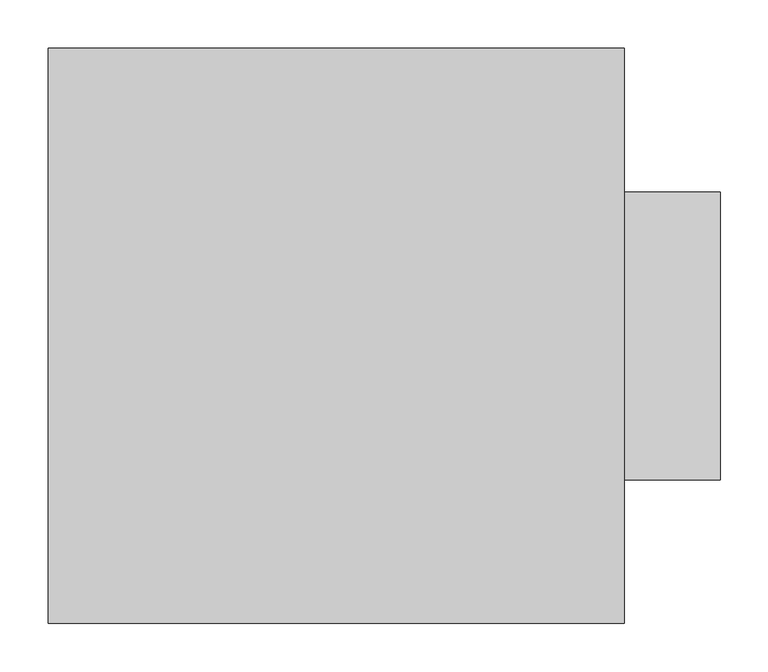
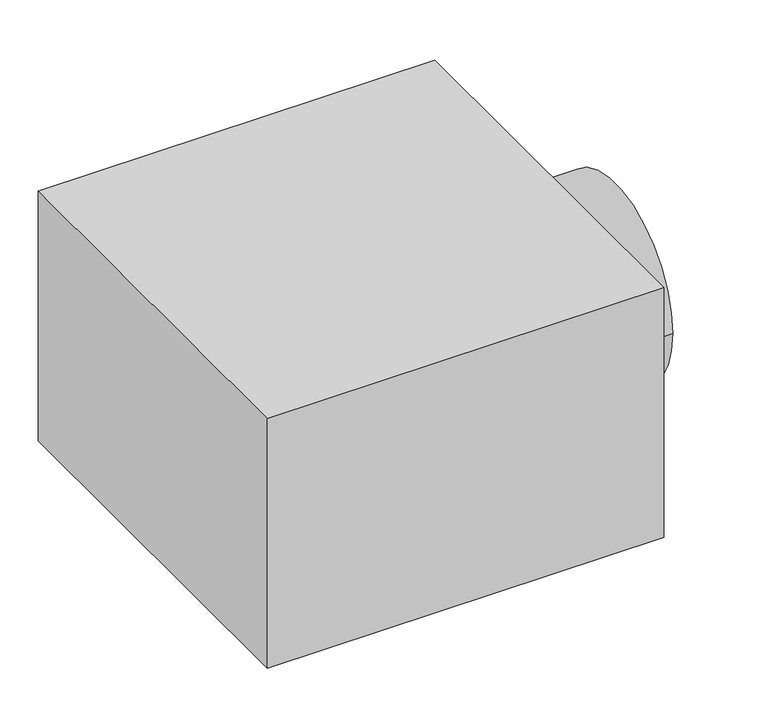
"""IFC4 building model written with IfcOpenShell, lengths in millimetres: duct fitting geometry, BL_Адаптер-СТ_КР : BL_Адаптер-СТ_КР."""

from ifc_helpers import new_model, si_unit, point, frame, origin, origin_2d, place, context, project, spatial, polyline, circle_curve, trimmed, segment, composite_curve, outline, extrude, source, transform, mapped, element, save


def duct_fitting_812cb25e(model_context):
    return source(origin(), model_context, "Body", "SweptSolid", [
        extrude(outline(composite_curve([segment(trimmed(circle_curve(origin_2d(), 150.0), [point((150.0, 0.0))], [point((-150.0, 0.0))], False, "CARTESIAN"), True, "CONTINUOUS"), segment(trimmed(circle_curve(origin_2d(), 150.0), [point((-150.0, 0.0))], [point((150.0, 0.0))], False, "CARTESIAN"), True, "CONTINUOUS")], self_intersect=False)), frame((600.0, 0.0, 0.0), z_axis=(1.0, 0.0, 0.0), x_axis=(0.0, 1.0, 0.0)), (0.0, 0.0, 1.0), 100.0),
        extrude(outline(polyline([(0.0, -300.0), (0.0, 300.0), (600.0, 300.0), (600.0, -300.0), (0.0, -300.0)])), frame((0.0, 0.0, -200.0), z_axis=(0.0, 0.0, 1.0), x_axis=(1.0, 0.0, 0.0)), (0.0, 0.0, 1.0), 400.0),
    ])


if __name__ == "__main__":
    model = new_model("IFC4")
    model_context = context("Model", 3, world=origin())
    ifc_project = project(units=[si_unit("LENGTHUNIT", "METRE", prefix="MILLI")], contexts=[model_context])
    site = spatial("IfcSite", under=ifc_project)
    building = spatial("IfcBuilding", under=site)
    placement = place(None, origin())
    duct_fitting_shape = duct_fitting_812cb25e(model_context)
    element("IfcDuctFitting", 1, ObjectType="BL_Адаптер-СТ_КР : BL_Адаптер-СТ_КР", at=placement, inside=building, context=model_context, shape_type="MappedRepresentation", body=[
        mapped(duct_fitting_shape, transform((0.0, 0.0, 0.0), x_axis=(1.0, 0.0, 0.0), y_axis=(0.0, 1.0, 0.0), z_axis=(0.0, 0.0, 1.0))),
    ])
    save(model, "model.ifc")
